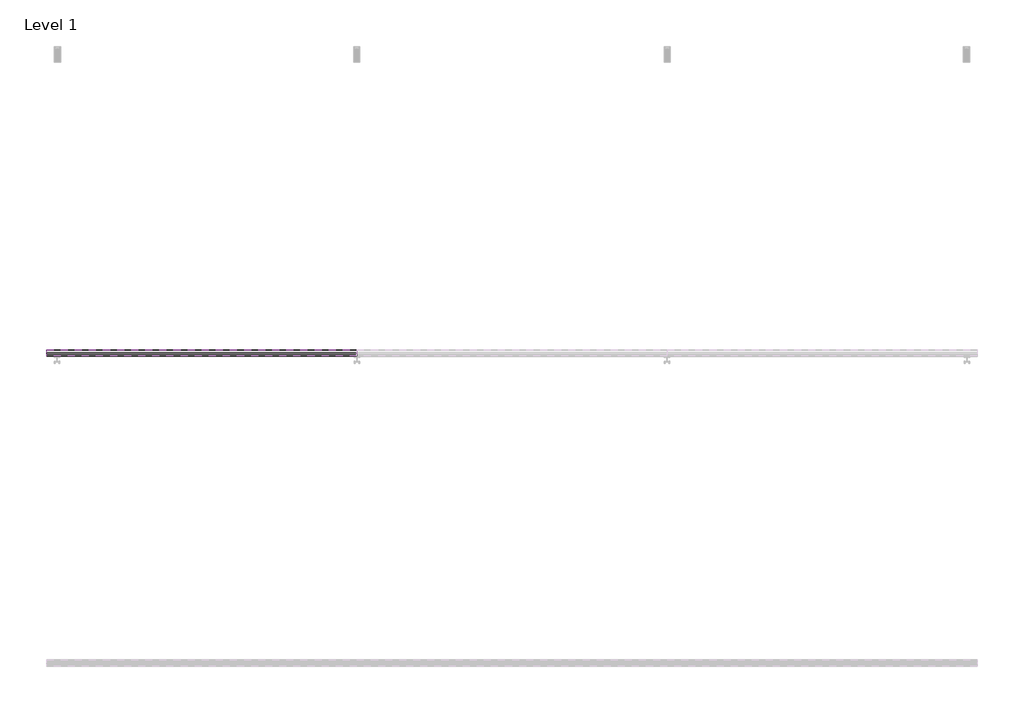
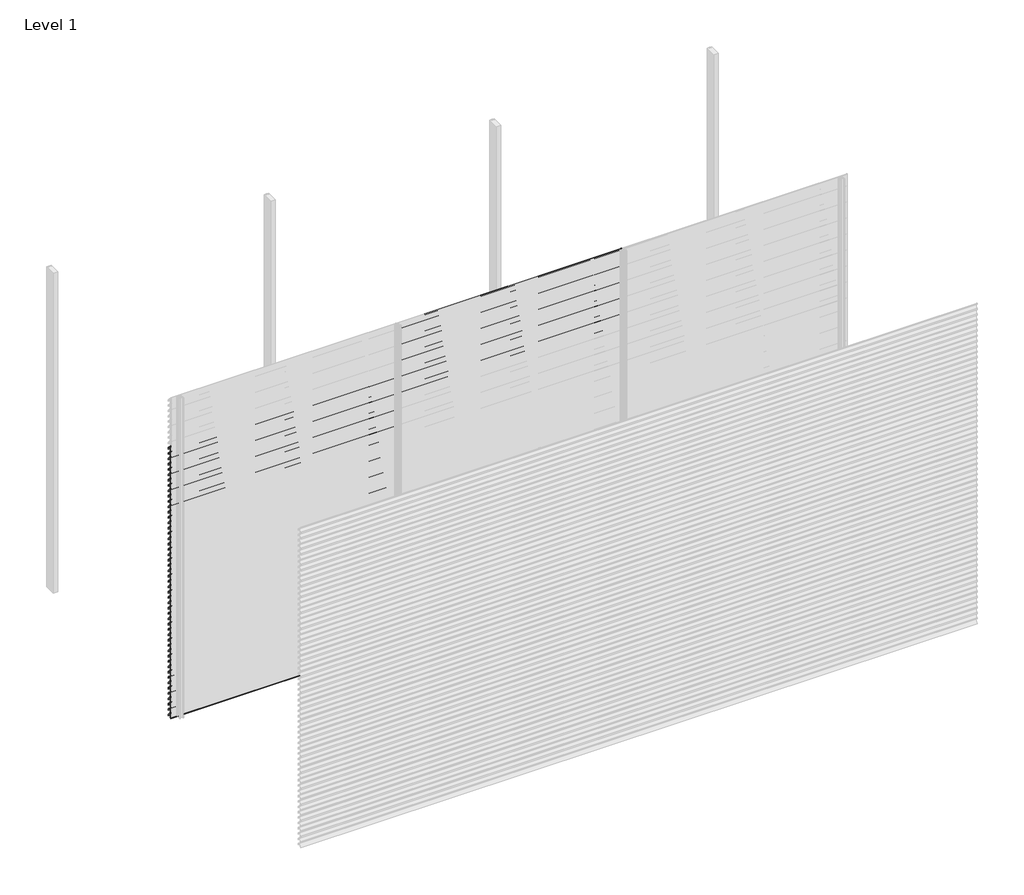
# One storey, part 11 of 38: 66 proxies.
"""IFC4 building model written with IfcOpenShell, lengths in millimetres."""

from ifc_helpers import new_model, si_unit, frame, origin, place, context, project, spatial, polyline, outline, extrude, element, save

model = new_model("IFC4")

# Units and contexts
model_context = context("Model", 3, world=origin())
ifc_project = project(units=[si_unit("LENGTHUNIT", "METRE", prefix="MILLI")], contexts=[model_context])

# Site, building, storey
site = spatial("IfcSite", under=ifc_project)
building = spatial("IfcBuilding", under=site)
storey = spatial("IfcBuildingStorey", under=building, Name="Level 1", Elevation=0.0)

# Proxies
placement = place(None, origin())
element("IfcBuildingElementProxy", 1, Name="Wall Sweeps", at=placement, inside=storey, context=model_context, shape_type="SweptSolid", body=[
    extrude(outline(polyline([(-41996.75, 2550.0), (-41996.75, 2539.19656), (-41974.6057113, 2526.4115489), (-41957.0, 2509.0472005), (-41957.0, 2494.0472005), (-41958.3, 2495.0268207), (-41958.3, 2508.5034593), (-41969.4914725, 2519.541504), (-41994.2797376, 2490.0), (-41995.9767671, 2490.0), (-41970.4200307, 2520.4573323), (-41975.3999793, 2525.3690091), (-41998.0, 2538.4171371), (-41998.0, 2550.0), (-41996.75, 2550.0)])), frame((0.0, 0.0, 0.0), z_axis=(1.0, 0.0, 0.0), x_axis=(0.0, 1.0, 0.0)), (0.0, 0.0, 1.0), 2000.0),
])
element("IfcBuildingElementProxy", 2, Name="Wall Sweeps", at=placement, inside=storey, context=model_context, shape_type="SweptSolid", body=[
    extrude(outline(polyline([(-41996.75, 2500.0), (-41996.75, 2489.19656), (-41974.6057113, 2476.4115489), (-41957.0, 2459.0472005), (-41957.0, 2444.0472005), (-41958.3, 2445.0268207), (-41958.3, 2458.5034593), (-41969.4914725, 2469.541504), (-41994.2797376, 2440.0), (-41995.9767671, 2440.0), (-41970.4200307, 2470.4573323), (-41975.3999793, 2475.3690091), (-41998.0, 2488.4171371), (-41998.0, 2500.0), (-41996.75, 2500.0)])), frame((0.0, 0.0, 0.0), z_axis=(1.0, 0.0, 0.0), x_axis=(0.0, 1.0, 0.0)), (0.0, 0.0, 1.0), 2000.0),
])
element("IfcBuildingElementProxy", 3, Name="Wall Sweeps", at=placement, inside=storey, context=model_context, shape_type="SweptSolid", body=[
    extrude(outline(polyline([(-41996.75, 2450.0), (-41996.75, 2439.19656), (-41974.6057113, 2426.4115489), (-41957.0, 2409.0472005), (-41957.0, 2394.0472005), (-41958.3, 2395.0268207), (-41958.3, 2408.5034593), (-41969.4914725, 2419.541504), (-41994.2797376, 2390.0), (-41995.9767671, 2390.0), (-41970.4200307, 2420.4573323), (-41975.3999793, 2425.3690091), (-41998.0, 2438.4171371), (-41998.0, 2450.0), (-41996.75, 2450.0)])), frame((0.0, 0.0, 0.0), z_axis=(1.0, 0.0, 0.0), x_axis=(0.0, 1.0, 0.0)), (0.0, 0.0, 1.0), 2000.0),
])
element("IfcBuildingElementProxy", 4, Name="Wall Sweeps", at=placement, inside=storey, context=model_context, shape_type="SweptSolid", body=[
    extrude(outline(polyline([(-41996.75, 2400.0), (-41996.75, 2389.19656), (-41974.6057113, 2376.4115489), (-41957.0, 2359.0472005), (-41957.0, 2344.0472005), (-41958.3, 2345.0268207), (-41958.3, 2358.5034593), (-41969.4914725, 2369.541504), (-41994.2797376, 2340.0), (-41995.9767671, 2340.0), (-41970.4200307, 2370.4573323), (-41975.3999793, 2375.3690091), (-41998.0, 2388.4171371), (-41998.0, 2400.0), (-41996.75, 2400.0)])), frame((0.0, 0.0, 0.0), z_axis=(1.0, 0.0, 0.0), x_axis=(0.0, 1.0, 0.0)), (0.0, 0.0, 1.0), 2000.0),
])
element("IfcBuildingElementProxy", 5, Name="Wall Sweeps", at=placement, inside=storey, context=model_context, shape_type="SweptSolid", body=[
    extrude(outline(polyline([(-41996.75, 2350.0), (-41996.75, 2339.19656), (-41974.6057113, 2326.4115489), (-41957.0, 2309.0472005), (-41957.0, 2294.0472005), (-41958.3, 2295.0268207), (-41958.3, 2308.5034593), (-41969.4914725, 2319.541504), (-41994.2797376, 2290.0), (-41995.9767671, 2290.0), (-41970.4200307, 2320.4573323), (-41975.3999793, 2325.3690091), (-41998.0, 2338.4171371), (-41998.0, 2350.0), (-41996.75, 2350.0)])), frame((0.0, 0.0, 0.0), z_axis=(1.0, 0.0, 0.0), x_axis=(0.0, 1.0, 0.0)), (0.0, 0.0, 1.0), 2000.0),
])
element("IfcBuildingElementProxy", 6, Name="Wall Sweeps", at=placement, inside=storey, context=model_context, shape_type="SweptSolid", body=[
    extrude(outline(polyline([(-41996.75, 2300.0), (-41996.75, 2289.19656), (-41974.6057113, 2276.4115489), (-41957.0, 2259.0472005), (-41957.0, 2244.0472005), (-41958.3, 2245.0268207), (-41958.3, 2258.5034593), (-41969.4914725, 2269.541504), (-41994.2797376, 2240.0), (-41995.9767671, 2240.0), (-41970.4200307, 2270.4573323), (-41975.3999793, 2275.3690091), (-41998.0, 2288.4171371), (-41998.0, 2300.0), (-41996.75, 2300.0)])), frame((0.0, 0.0, 0.0), z_axis=(1.0, 0.0, 0.0), x_axis=(0.0, 1.0, 0.0)), (0.0, 0.0, 1.0), 2000.0),
])
element("IfcBuildingElementProxy", 7, Name="Wall Sweeps", at=placement, inside=storey, context=model_context, shape_type="SweptSolid", body=[
    extrude(outline(polyline([(-41996.75, 2250.0), (-41996.75, 2239.19656), (-41974.6057113, 2226.4115489), (-41957.0, 2209.0472005), (-41957.0, 2194.0472005), (-41958.3, 2195.0268207), (-41958.3, 2208.5034593), (-41969.4914725, 2219.541504), (-41994.2797376, 2190.0), (-41995.9767671, 2190.0), (-41970.4200307, 2220.4573323), (-41975.3999793, 2225.3690091), (-41998.0, 2238.4171371), (-41998.0, 2250.0), (-41996.75, 2250.0)])), frame((0.0, 0.0, 0.0), z_axis=(1.0, 0.0, 0.0), x_axis=(0.0, 1.0, 0.0)), (0.0, 0.0, 1.0), 2000.0),
])
element("IfcBuildingElementProxy", 8, Name="Wall Sweeps", at=placement, inside=storey, context=model_context, shape_type="SweptSolid", body=[
    extrude(outline(polyline([(-41996.75, 2200.0), (-41996.75, 2189.19656), (-41974.6057113, 2176.4115489), (-41957.0, 2159.0472005), (-41957.0, 2144.0472005), (-41958.3, 2145.0268207), (-41958.3, 2158.5034593), (-41969.4914725, 2169.541504), (-41994.2797376, 2140.0), (-41995.9767671, 2140.0), (-41970.4200307, 2170.4573323), (-41975.3999793, 2175.3690091), (-41998.0, 2188.4171371), (-41998.0, 2200.0), (-41996.75, 2200.0)])), frame((0.0, 0.0, 0.0), z_axis=(1.0, 0.0, 0.0), x_axis=(0.0, 1.0, 0.0)), (0.0, 0.0, 1.0), 2000.0),
])
element("IfcBuildingElementProxy", 9, Name="Wall Sweeps", at=placement, inside=storey, context=model_context, shape_type="SweptSolid", body=[
    extrude(outline(polyline([(-41996.75, 2150.0), (-41996.75, 2139.19656), (-41974.6057113, 2126.4115489), (-41957.0, 2109.0472005), (-41957.0, 2094.0472005), (-41958.3, 2095.0268207), (-41958.3, 2108.5034593), (-41969.4914725, 2119.541504), (-41994.2797376, 2090.0), (-41995.9767671, 2090.0), (-41970.4200307, 2120.4573323), (-41975.3999793, 2125.3690091), (-41998.0, 2138.4171371), (-41998.0, 2150.0), (-41996.75, 2150.0)])), frame((0.0, 0.0, 0.0), z_axis=(1.0, 0.0, 0.0), x_axis=(0.0, 1.0, 0.0)), (0.0, 0.0, 1.0), 2000.0),
])
element("IfcBuildingElementProxy", 10, Name="Wall Sweeps", at=placement, inside=storey, context=model_context, shape_type="SweptSolid", body=[
    extrude(outline(polyline([(-41996.75, 2100.0), (-41996.75, 2089.19656), (-41974.6057113, 2076.4115489), (-41957.0, 2059.0472005), (-41957.0, 2044.0472005), (-41958.3, 2045.0268207), (-41958.3, 2058.5034593), (-41969.4914725, 2069.541504), (-41994.2797376, 2040.0), (-41995.9767671, 2040.0), (-41970.4200307, 2070.4573323), (-41975.3999793, 2075.3690091), (-41998.0, 2088.4171371), (-41998.0, 2100.0), (-41996.75, 2100.0)])), frame((0.0, 0.0, 0.0), z_axis=(1.0, 0.0, 0.0), x_axis=(0.0, 1.0, 0.0)), (0.0, 0.0, 1.0), 2000.0),
])
element("IfcBuildingElementProxy", 11, Name="Wall Sweeps", at=placement, inside=storey, context=model_context, shape_type="SweptSolid", body=[
    extrude(outline(polyline([(-41996.75, 2050.0), (-41996.75, 2039.19656), (-41974.6057113, 2026.4115489), (-41957.0, 2009.0472005), (-41957.0, 1994.0472005), (-41958.3, 1995.0268207), (-41958.3, 2008.5034593), (-41969.4914725, 2019.541504), (-41994.2797376, 1990.0), (-41995.9767671, 1990.0), (-41970.4200307, 2020.4573323), (-41975.3999793, 2025.3690091), (-41998.0, 2038.4171371), (-41998.0, 2050.0), (-41996.75, 2050.0)])), frame((0.0, 0.0, 0.0), z_axis=(1.0, 0.0, 0.0), x_axis=(0.0, 1.0, 0.0)), (0.0, 0.0, 1.0), 2000.0),
])
element("IfcBuildingElementProxy", 12, Name="Wall Sweeps", at=placement, inside=storey, context=model_context, shape_type="SweptSolid", body=[
    extrude(outline(polyline([(-41996.75, 2000.0), (-41996.75, 1989.19656), (-41974.6057113, 1976.4115489), (-41957.0, 1959.0472005), (-41957.0, 1944.0472005), (-41958.3, 1945.0268207), (-41958.3, 1958.5034593), (-41969.4914725, 1969.541504), (-41994.2797376, 1940.0), (-41995.9767671, 1940.0), (-41970.4200307, 1970.4573323), (-41975.3999793, 1975.3690091), (-41998.0, 1988.4171371), (-41998.0, 2000.0), (-41996.75, 2000.0)])), frame((0.0, 0.0, 0.0), z_axis=(1.0, 0.0, 0.0), x_axis=(0.0, 1.0, 0.0)), (0.0, 0.0, 1.0), 2000.0),
])
element("IfcBuildingElementProxy", 13, Name="Wall Sweeps", at=placement, inside=storey, context=model_context, shape_type="SweptSolid", body=[
    extrude(outline(polyline([(-41996.75, 1950.0), (-41996.75, 1939.19656), (-41974.6057113, 1926.4115489), (-41957.0, 1909.0472005), (-41957.0, 1894.0472005), (-41958.3, 1895.0268207), (-41958.3, 1908.5034593), (-41969.4914725, 1919.541504), (-41994.2797376, 1890.0), (-41995.9767671, 1890.0), (-41970.4200307, 1920.4573323), (-41975.3999793, 1925.3690091), (-41998.0, 1938.4171371), (-41998.0, 1950.0), (-41996.75, 1950.0)])), frame((0.0, 0.0, 0.0), z_axis=(1.0, 0.0, 0.0), x_axis=(0.0, 1.0, 0.0)), (0.0, 0.0, 1.0), 2000.0),
])
element("IfcBuildingElementProxy", 14, Name="Wall Sweeps", at=placement, inside=storey, context=model_context, shape_type="SweptSolid", body=[
    extrude(outline(polyline([(-41996.75, 1900.0), (-41996.75, 1889.19656), (-41974.6057113, 1876.4115489), (-41957.0, 1859.0472005), (-41957.0, 1844.0472005), (-41958.3, 1845.0268207), (-41958.3, 1858.5034593), (-41969.4914725, 1869.541504), (-41994.2797376, 1840.0), (-41995.9767671, 1840.0), (-41970.4200307, 1870.4573323), (-41975.3999793, 1875.3690091), (-41998.0, 1888.4171371), (-41998.0, 1900.0), (-41996.75, 1900.0)])), frame((0.0, 0.0, 0.0), z_axis=(1.0, 0.0, 0.0), x_axis=(0.0, 1.0, 0.0)), (0.0, 0.0, 1.0), 2000.0),
])
element("IfcBuildingElementProxy", 15, Name="Wall Sweeps", at=placement, inside=storey, context=model_context, shape_type="SweptSolid", body=[
    extrude(outline(polyline([(-41996.75, 1850.0), (-41996.75, 1839.19656), (-41974.6057113, 1826.4115489), (-41957.0, 1809.0472005), (-41957.0, 1794.0472005), (-41958.3, 1795.0268207), (-41958.3, 1808.5034593), (-41969.4914725, 1819.541504), (-41994.2797376, 1790.0), (-41995.9767671, 1790.0), (-41970.4200307, 1820.4573323), (-41975.3999793, 1825.3690091), (-41998.0, 1838.4171371), (-41998.0, 1850.0), (-41996.75, 1850.0)])), frame((0.0, 0.0, 0.0), z_axis=(1.0, 0.0, 0.0), x_axis=(0.0, 1.0, 0.0)), (0.0, 0.0, 1.0), 2000.0),
])
element("IfcBuildingElementProxy", 16, Name="Wall Sweeps", at=placement, inside=storey, context=model_context, shape_type="SweptSolid", body=[
    extrude(outline(polyline([(-41996.75, 1800.0), (-41996.75, 1789.19656), (-41974.6057113, 1776.4115489), (-41957.0, 1759.0472005), (-41957.0, 1744.0472005), (-41958.3, 1745.0268207), (-41958.3, 1758.5034593), (-41969.4914725, 1769.541504), (-41994.2797376, 1740.0), (-41995.9767671, 1740.0), (-41970.4200307, 1770.4573323), (-41975.3999793, 1775.3690091), (-41998.0, 1788.4171371), (-41998.0, 1800.0), (-41996.75, 1800.0)])), frame((0.0, 0.0, 0.0), z_axis=(1.0, 0.0, 0.0), x_axis=(0.0, 1.0, 0.0)), (0.0, 0.0, 1.0), 2000.0),
])
element("IfcBuildingElementProxy", 17, Name="Wall Sweeps", at=placement, inside=storey, context=model_context, shape_type="SweptSolid", body=[
    extrude(outline(polyline([(-41996.75, 1750.0), (-41996.75, 1739.19656), (-41974.6057113, 1726.4115489), (-41957.0, 1709.0472005), (-41957.0, 1694.0472005), (-41958.3, 1695.0268207), (-41958.3, 1708.5034593), (-41969.4914725, 1719.541504), (-41994.2797376, 1690.0), (-41995.9767671, 1690.0), (-41970.4200307, 1720.4573323), (-41975.3999793, 1725.3690091), (-41998.0, 1738.4171371), (-41998.0, 1750.0), (-41996.75, 1750.0)])), frame((0.0, 0.0, 0.0), z_axis=(1.0, 0.0, 0.0), x_axis=(0.0, 1.0, 0.0)), (0.0, 0.0, 1.0), 2000.0),
])
element("IfcBuildingElementProxy", 18, Name="Wall Sweeps", at=placement, inside=storey, context=model_context, shape_type="SweptSolid", body=[
    extrude(outline(polyline([(-41996.75, 1700.0), (-41996.75, 1689.19656), (-41974.6057113, 1676.4115489), (-41957.0, 1659.0472005), (-41957.0, 1644.0472005), (-41958.3, 1645.0268207), (-41958.3, 1658.5034593), (-41969.4914725, 1669.541504), (-41994.2797376, 1640.0), (-41995.9767671, 1640.0), (-41970.4200307, 1670.4573323), (-41975.3999793, 1675.3690091), (-41998.0, 1688.4171371), (-41998.0, 1700.0), (-41996.75, 1700.0)])), frame((0.0, 0.0, 0.0), z_axis=(1.0, 0.0, 0.0), x_axis=(0.0, 1.0, 0.0)), (0.0, 0.0, 1.0), 2000.0),
])
element("IfcBuildingElementProxy", 19, Name="Wall Sweeps", at=placement, inside=storey, context=model_context, shape_type="SweptSolid", body=[
    extrude(outline(polyline([(-41996.75, 1650.0), (-41996.75, 1639.19656), (-41974.6057113, 1626.4115489), (-41957.0, 1609.0472005), (-41957.0, 1594.0472005), (-41958.3, 1595.0268207), (-41958.3, 1608.5034593), (-41969.4914725, 1619.541504), (-41994.2797376, 1590.0), (-41995.9767671, 1590.0), (-41970.4200307, 1620.4573323), (-41975.3999793, 1625.3690091), (-41998.0, 1638.4171371), (-41998.0, 1650.0), (-41996.75, 1650.0)])), frame((0.0, 0.0, 0.0), z_axis=(1.0, 0.0, 0.0), x_axis=(0.0, 1.0, 0.0)), (0.0, 0.0, 1.0), 2000.0),
])
element("IfcBuildingElementProxy", 20, Name="Wall Sweeps", at=placement, inside=storey, context=model_context, shape_type="SweptSolid", body=[
    extrude(outline(polyline([(-41996.75, 1600.0), (-41996.75, 1589.19656), (-41974.6057113, 1576.4115489), (-41957.0, 1559.0472005), (-41957.0, 1544.0472005), (-41958.3, 1545.0268207), (-41958.3, 1558.5034593), (-41969.4914725, 1569.541504), (-41994.2797376, 1540.0), (-41995.9767671, 1540.0), (-41970.4200307, 1570.4573323), (-41975.3999793, 1575.3690091), (-41998.0, 1588.4171371), (-41998.0, 1600.0), (-41996.75, 1600.0)])), frame((0.0, 0.0, 0.0), z_axis=(1.0, 0.0, 0.0), x_axis=(0.0, 1.0, 0.0)), (0.0, 0.0, 1.0), 2000.0),
])
element("IfcBuildingElementProxy", 21, Name="Wall Sweeps", at=placement, inside=storey, context=model_context, shape_type="SweptSolid", body=[
    extrude(outline(polyline([(-41996.75, 1550.0), (-41996.75, 1539.19656), (-41974.6057113, 1526.4115489), (-41957.0, 1509.0472005), (-41957.0, 1494.0472005), (-41958.3, 1495.0268207), (-41958.3, 1508.5034593), (-41969.4914725, 1519.541504), (-41994.2797376, 1490.0), (-41995.9767671, 1490.0), (-41970.4200307, 1520.4573323), (-41975.3999793, 1525.3690091), (-41998.0, 1538.4171371), (-41998.0, 1550.0), (-41996.75, 1550.0)])), frame((0.0, 0.0, 0.0), z_axis=(1.0, 0.0, 0.0), x_axis=(0.0, 1.0, 0.0)), (0.0, 0.0, 1.0), 2000.0),
])
element("IfcBuildingElementProxy", 22, Name="Wall Sweeps", at=placement, inside=storey, context=model_context, shape_type="SweptSolid", body=[
    extrude(outline(polyline([(-41996.75, 1500.0), (-41996.75, 1489.19656), (-41974.6057113, 1476.4115489), (-41957.0, 1459.0472005), (-41957.0, 1444.0472005), (-41958.3, 1445.0268207), (-41958.3, 1458.5034593), (-41969.4914725, 1469.541504), (-41994.2797376, 1440.0), (-41995.9767671, 1440.0), (-41970.4200307, 1470.4573323), (-41975.3999793, 1475.3690091), (-41998.0, 1488.4171371), (-41998.0, 1500.0), (-41996.75, 1500.0)])), frame((0.0, 0.0, 0.0), z_axis=(1.0, 0.0, 0.0), x_axis=(0.0, 1.0, 0.0)), (0.0, 0.0, 1.0), 2000.0),
])
element("IfcBuildingElementProxy", 23, Name="Wall Sweeps", at=placement, inside=storey, context=model_context, shape_type="SweptSolid", body=[
    extrude(outline(polyline([(-41996.75, 1450.0), (-41996.75, 1439.19656), (-41974.6057113, 1426.4115489), (-41957.0, 1409.0472005), (-41957.0, 1394.0472005), (-41958.3, 1395.0268207), (-41958.3, 1408.5034593), (-41969.4914725, 1419.541504), (-41994.2797376, 1390.0), (-41995.9767671, 1390.0), (-41970.4200307, 1420.4573323), (-41975.3999793, 1425.3690091), (-41998.0, 1438.4171371), (-41998.0, 1450.0), (-41996.75, 1450.0)])), frame((0.0, 0.0, 0.0), z_axis=(1.0, 0.0, 0.0), x_axis=(0.0, 1.0, 0.0)), (0.0, 0.0, 1.0), 2000.0),
])
element("IfcBuildingElementProxy", 24, Name="Wall Sweeps", at=placement, inside=storey, context=model_context, shape_type="SweptSolid", body=[
    extrude(outline(polyline([(-41996.75, 1400.0), (-41996.75, 1389.19656), (-41974.6057113, 1376.4115489), (-41957.0, 1359.0472005), (-41957.0, 1344.0472005), (-41958.3, 1345.0268207), (-41958.3, 1358.5034593), (-41969.4914725, 1369.541504), (-41994.2797376, 1340.0), (-41995.9767671, 1340.0), (-41970.4200307, 1370.4573323), (-41975.3999793, 1375.3690091), (-41998.0, 1388.4171371), (-41998.0, 1400.0), (-41996.75, 1400.0)])), frame((0.0, 0.0, 0.0), z_axis=(1.0, 0.0, 0.0), x_axis=(0.0, 1.0, 0.0)), (0.0, 0.0, 1.0), 2000.0),
])
element("IfcBuildingElementProxy", 25, Name="Wall Sweeps", at=placement, inside=storey, context=model_context, shape_type="SweptSolid", body=[
    extrude(outline(polyline([(-41996.75, 1350.0), (-41996.75, 1339.19656), (-41974.6057113, 1326.4115489), (-41957.0, 1309.0472005), (-41957.0, 1294.0472005), (-41958.3, 1295.0268207), (-41958.3, 1308.5034593), (-41969.4914725, 1319.541504), (-41994.2797376, 1290.0), (-41995.9767671, 1290.0), (-41970.4200307, 1320.4573323), (-41975.3999793, 1325.3690091), (-41998.0, 1338.4171371), (-41998.0, 1350.0), (-41996.75, 1350.0)])), frame((0.0, 0.0, 0.0), z_axis=(1.0, 0.0, 0.0), x_axis=(0.0, 1.0, 0.0)), (0.0, 0.0, 1.0), 2000.0),
])
element("IfcBuildingElementProxy", 26, Name="Wall Sweeps", at=placement, inside=storey, context=model_context, shape_type="SweptSolid", body=[
    extrude(outline(polyline([(-41996.75, 1300.0), (-41996.75, 1289.19656), (-41974.6057113, 1276.4115489), (-41957.0, 1259.0472005), (-41957.0, 1244.0472005), (-41958.3, 1245.0268207), (-41958.3, 1258.5034593), (-41969.4914725, 1269.541504), (-41994.2797376, 1240.0), (-41995.9767671, 1240.0), (-41970.4200307, 1270.4573323), (-41975.3999793, 1275.3690091), (-41998.0, 1288.4171371), (-41998.0, 1300.0), (-41996.75, 1300.0)])), frame((0.0, 0.0, 0.0), z_axis=(1.0, 0.0, 0.0), x_axis=(0.0, 1.0, 0.0)), (0.0, 0.0, 1.0), 2000.0),
])
element("IfcBuildingElementProxy", 27, Name="Wall Sweeps", at=placement, inside=storey, context=model_context, shape_type="SweptSolid", body=[
    extrude(outline(polyline([(-41996.75, 1250.0), (-41996.75, 1239.19656), (-41974.6057113, 1226.4115489), (-41957.0, 1209.0472005), (-41957.0, 1194.0472005), (-41958.3, 1195.0268207), (-41958.3, 1208.5034593), (-41969.4914725, 1219.541504), (-41994.2797376, 1190.0), (-41995.9767671, 1190.0), (-41970.4200307, 1220.4573323), (-41975.3999793, 1225.3690091), (-41998.0, 1238.4171371), (-41998.0, 1250.0), (-41996.75, 1250.0)])), frame((0.0, 0.0, 0.0), z_axis=(1.0, 0.0, 0.0), x_axis=(0.0, 1.0, 0.0)), (0.0, 0.0, 1.0), 2000.0),
])
element("IfcBuildingElementProxy", 28, Name="Wall Sweeps", at=placement, inside=storey, context=model_context, shape_type="SweptSolid", body=[
    extrude(outline(polyline([(-41996.75, 1200.0), (-41996.75, 1189.19656), (-41974.6057113, 1176.4115489), (-41957.0, 1159.0472005), (-41957.0, 1144.0472005), (-41958.3, 1145.0268207), (-41958.3, 1158.5034593), (-41969.4914725, 1169.541504), (-41994.2797376, 1140.0), (-41995.9767671, 1140.0), (-41970.4200307, 1170.4573323), (-41975.3999793, 1175.3690091), (-41998.0, 1188.4171371), (-41998.0, 1200.0), (-41996.75, 1200.0)])), frame((0.0, 0.0, 0.0), z_axis=(1.0, 0.0, 0.0), x_axis=(0.0, 1.0, 0.0)), (0.0, 0.0, 1.0), 2000.0),
])
element("IfcBuildingElementProxy", 29, Name="Wall Sweeps", at=placement, inside=storey, context=model_context, shape_type="SweptSolid", body=[
    extrude(outline(polyline([(-41996.75, 1150.0), (-41996.75, 1139.19656), (-41974.6057113, 1126.4115489), (-41957.0, 1109.0472005), (-41957.0, 1094.0472005), (-41958.3, 1095.0268207), (-41958.3, 1108.5034593), (-41969.4914725, 1119.541504), (-41994.2797376, 1090.0), (-41995.9767671, 1090.0), (-41970.4200307, 1120.4573323), (-41975.3999793, 1125.3690091), (-41998.0, 1138.4171371), (-41998.0, 1150.0), (-41996.75, 1150.0)])), frame((0.0, 0.0, 0.0), z_axis=(1.0, 0.0, 0.0), x_axis=(0.0, 1.0, 0.0)), (0.0, 0.0, 1.0), 2000.0),
])
element("IfcBuildingElementProxy", 30, Name="Wall Sweeps", at=placement, inside=storey, context=model_context, shape_type="SweptSolid", body=[
    extrude(outline(polyline([(-41996.75, 1100.0), (-41996.75, 1089.19656), (-41974.6057113, 1076.4115489), (-41957.0, 1059.0472005), (-41957.0, 1044.0472005), (-41958.3, 1045.0268207), (-41958.3, 1058.5034593), (-41969.4914725, 1069.541504), (-41994.2797376, 1040.0), (-41995.9767671, 1040.0), (-41970.4200307, 1070.4573323), (-41975.3999793, 1075.3690091), (-41998.0, 1088.4171371), (-41998.0, 1100.0), (-41996.75, 1100.0)])), frame((0.0, 0.0, 0.0), z_axis=(1.0, 0.0, 0.0), x_axis=(0.0, 1.0, 0.0)), (0.0, 0.0, 1.0), 2000.0),
])
element("IfcBuildingElementProxy", 31, Name="Wall Sweeps", at=placement, inside=storey, context=model_context, shape_type="SweptSolid", body=[
    extrude(outline(polyline([(-41996.75, 1050.0), (-41996.75, 1039.19656), (-41974.6057113, 1026.4115489), (-41957.0, 1009.0472005), (-41957.0, 994.0472005), (-41958.3, 995.0268207), (-41958.3, 1008.5034593), (-41969.4914725, 1019.541504), (-41994.2797376, 990.0), (-41995.9767671, 990.0), (-41970.4200307, 1020.4573323), (-41975.3999793, 1025.3690091), (-41998.0, 1038.4171371), (-41998.0, 1050.0), (-41996.75, 1050.0)])), frame((0.0, 0.0, 0.0), z_axis=(1.0, 0.0, 0.0), x_axis=(0.0, 1.0, 0.0)), (0.0, 0.0, 1.0), 2000.0),
])
element("IfcBuildingElementProxy", 32, Name="Wall Sweeps", at=placement, inside=storey, context=model_context, shape_type="SweptSolid", body=[
    extrude(outline(polyline([(-41996.75, 1000.0), (-41996.75, 989.19656), (-41974.6057113, 976.4115489), (-41957.0, 959.0472005), (-41957.0, 944.0472005), (-41958.3, 945.0268207), (-41958.3, 958.5034593), (-41969.4914725, 969.541504), (-41994.2797376, 940.0), (-41995.9767671, 940.0), (-41970.4200307, 970.4573323), (-41975.3999793, 975.3690091), (-41998.0, 988.4171371), (-41998.0, 1000.0), (-41996.75, 1000.0)])), frame((0.0, 0.0, 0.0), z_axis=(1.0, 0.0, 0.0), x_axis=(0.0, 1.0, 0.0)), (0.0, 0.0, 1.0), 2000.0),
])
element("IfcBuildingElementProxy", 33, Name="Wall Sweeps", at=placement, inside=storey, context=model_context, shape_type="SweptSolid", body=[
    extrude(outline(polyline([(-41996.75, 950.0), (-41996.75, 939.19656), (-41974.6057113, 926.4115489), (-41957.0, 909.0472005), (-41957.0, 894.0472005), (-41958.3, 895.0268207), (-41958.3, 908.5034593), (-41969.4914725, 919.541504), (-41994.2797376, 890.0), (-41995.9767671, 890.0), (-41970.4200307, 920.4573323), (-41975.3999793, 925.3690091), (-41998.0, 938.4171371), (-41998.0, 950.0), (-41996.75, 950.0)])), frame((0.0, 0.0, 0.0), z_axis=(1.0, 0.0, 0.0), x_axis=(0.0, 1.0, 0.0)), (0.0, 0.0, 1.0), 2000.0),
])
element("IfcBuildingElementProxy", 34, Name="Wall Sweeps", at=placement, inside=storey, context=model_context, shape_type="SweptSolid", body=[
    extrude(outline(polyline([(-41996.75, 900.0), (-41996.75, 889.19656), (-41974.6057113, 876.4115489), (-41957.0, 859.0472005), (-41957.0, 844.0472005), (-41958.3, 845.0268207), (-41958.3, 858.5034593), (-41969.4914725, 869.541504), (-41994.2797376, 840.0), (-41995.9767671, 840.0), (-41970.4200307, 870.4573323), (-41975.3999793, 875.3690091), (-41998.0, 888.4171371), (-41998.0, 900.0), (-41996.75, 900.0)])), frame((0.0, 0.0, 0.0), z_axis=(1.0, 0.0, 0.0), x_axis=(0.0, 1.0, 0.0)), (0.0, 0.0, 1.0), 2000.0),
])
element("IfcBuildingElementProxy", 35, Name="Wall Sweeps", at=placement, inside=storey, context=model_context, shape_type="SweptSolid", body=[
    extrude(outline(polyline([(-41996.75, 850.0), (-41996.75, 839.19656), (-41974.6057113, 826.4115489), (-41957.0, 809.0472005), (-41957.0, 794.0472005), (-41958.3, 795.0268207), (-41958.3, 808.5034593), (-41969.4914725, 819.541504), (-41994.2797376, 790.0), (-41995.9767671, 790.0), (-41970.4200307, 820.4573323), (-41975.3999793, 825.3690091), (-41998.0, 838.4171371), (-41998.0, 850.0), (-41996.75, 850.0)])), frame((0.0, 0.0, 0.0), z_axis=(1.0, 0.0, 0.0), x_axis=(0.0, 1.0, 0.0)), (0.0, 0.0, 1.0), 2000.0),
])
element("IfcBuildingElementProxy", 36, Name="Wall Sweeps", at=placement, inside=storey, context=model_context, shape_type="SweptSolid", body=[
    extrude(outline(polyline([(-41996.75, 800.0), (-41996.75, 789.19656), (-41974.6057113, 776.4115489), (-41957.0, 759.0472005), (-41957.0, 744.0472005), (-41958.3, 745.0268207), (-41958.3, 758.5034593), (-41969.4914725, 769.541504), (-41994.2797376, 740.0), (-41995.9767671, 740.0), (-41970.4200307, 770.4573323), (-41975.3999793, 775.3690091), (-41998.0, 788.4171371), (-41998.0, 800.0), (-41996.75, 800.0)])), frame((0.0, 0.0, 0.0), z_axis=(1.0, 0.0, 0.0), x_axis=(0.0, 1.0, 0.0)), (0.0, 0.0, 1.0), 2000.0),
])
element("IfcBuildingElementProxy", 37, Name="Wall Sweeps", at=placement, inside=storey, context=model_context, shape_type="SweptSolid", body=[
    extrude(outline(polyline([(-41996.75, 750.0), (-41996.75, 739.19656), (-41974.6057113, 726.4115489), (-41957.0, 709.0472005), (-41957.0, 694.0472005), (-41958.3, 695.0268207), (-41958.3, 708.5034593), (-41969.4914725, 719.541504), (-41994.2797376, 690.0), (-41995.9767671, 690.0), (-41970.4200307, 720.4573323), (-41975.3999793, 725.3690091), (-41998.0, 738.4171371), (-41998.0, 750.0), (-41996.75, 750.0)])), frame((0.0, 0.0, 0.0), z_axis=(1.0, 0.0, 0.0), x_axis=(0.0, 1.0, 0.0)), (0.0, 0.0, 1.0), 2000.0),
])
element("IfcBuildingElementProxy", 38, Name="Wall Sweeps", at=placement, inside=storey, context=model_context, shape_type="SweptSolid", body=[
    extrude(outline(polyline([(-41996.75, 700.0), (-41996.75, 689.19656), (-41974.6057113, 676.4115489), (-41957.0, 659.0472005), (-41957.0, 644.0472005), (-41958.3, 645.0268207), (-41958.3, 658.5034593), (-41969.4914725, 669.541504), (-41994.2797376, 640.0), (-41995.9767671, 640.0), (-41970.4200307, 670.4573323), (-41975.3999793, 675.3690091), (-41998.0, 688.4171371), (-41998.0, 700.0), (-41996.75, 700.0)])), frame((0.0, 0.0, 0.0), z_axis=(1.0, 0.0, 0.0), x_axis=(0.0, 1.0, 0.0)), (0.0, 0.0, 1.0), 2000.0),
])
element("IfcBuildingElementProxy", 39, Name="Wall Sweeps", at=placement, inside=storey, context=model_context, shape_type="SweptSolid", body=[
    extrude(outline(polyline([(-41996.75, 650.0), (-41996.75, 639.19656), (-41974.6057113, 626.4115489), (-41957.0, 609.0472005), (-41957.0, 594.0472005), (-41958.3, 595.0268207), (-41958.3, 608.5034593), (-41969.4914725, 619.541504), (-41994.2797376, 590.0), (-41995.9767671, 590.0), (-41970.4200307, 620.4573323), (-41975.3999793, 625.3690091), (-41998.0, 638.4171371), (-41998.0, 650.0), (-41996.75, 650.0)])), frame((0.0, 0.0, 0.0), z_axis=(1.0, 0.0, 0.0), x_axis=(0.0, 1.0, 0.0)), (0.0, 0.0, 1.0), 2000.0),
])
element("IfcBuildingElementProxy", 40, Name="Wall Sweeps", at=placement, inside=storey, context=model_context, shape_type="SweptSolid", body=[
    extrude(outline(polyline([(-41996.75, 600.0), (-41996.75, 589.19656), (-41974.6057113, 576.4115489), (-41957.0, 559.0472005), (-41957.0, 544.0472005), (-41958.3, 545.0268207), (-41958.3, 558.5034593), (-41969.4914725, 569.541504), (-41994.2797376, 540.0), (-41995.9767671, 540.0), (-41970.4200307, 570.4573323), (-41975.3999793, 575.3690091), (-41998.0, 588.4171371), (-41998.0, 600.0), (-41996.75, 600.0)])), frame((0.0, 0.0, 0.0), z_axis=(1.0, 0.0, 0.0), x_axis=(0.0, 1.0, 0.0)), (0.0, 0.0, 1.0), 2000.0),
])
element("IfcBuildingElementProxy", 41, Name="Wall Sweeps", at=placement, inside=storey, context=model_context, shape_type="SweptSolid", body=[
    extrude(outline(polyline([(-41996.75, 550.0), (-41996.75, 539.19656), (-41974.6057113, 526.4115489), (-41957.0, 509.0472005), (-41957.0, 494.0472005), (-41958.3, 495.0268207), (-41958.3, 508.5034593), (-41969.4914725, 519.541504), (-41994.2797376, 490.0), (-41995.9767671, 490.0), (-41970.4200307, 520.4573323), (-41975.3999793, 525.3690091), (-41998.0, 538.4171371), (-41998.0, 550.0), (-41996.75, 550.0)])), frame((0.0, 0.0, 0.0), z_axis=(1.0, 0.0, 0.0), x_axis=(0.0, 1.0, 0.0)), (0.0, 0.0, 1.0), 2000.0),
])
element("IfcBuildingElementProxy", 42, Name="Wall Sweeps", at=placement, inside=storey, context=model_context, shape_type="SweptSolid", body=[
    extrude(outline(polyline([(-41996.75, 500.0), (-41996.75, 489.19656), (-41974.6057113, 476.4115489), (-41957.0, 459.0472005), (-41957.0, 444.0472005), (-41958.3, 445.0268207), (-41958.3, 458.5034593), (-41969.4914725, 469.541504), (-41994.2797376, 440.0), (-41995.9767671, 440.0), (-41970.4200307, 470.4573323), (-41975.3999793, 475.3690091), (-41998.0, 488.4171371), (-41998.0, 500.0), (-41996.75, 500.0)])), frame((0.0, 0.0, 0.0), z_axis=(1.0, 0.0, 0.0), x_axis=(0.0, 1.0, 0.0)), (0.0, 0.0, 1.0), 2000.0),
])
element("IfcBuildingElementProxy", 43, Name="Wall Sweeps", at=placement, inside=storey, context=model_context, shape_type="SweptSolid", body=[
    extrude(outline(polyline([(-41996.75, 450.0), (-41996.75, 439.19656), (-41974.6057113, 426.4115489), (-41957.0, 409.0472005), (-41957.0, 394.0472005), (-41958.3, 395.0268207), (-41958.3, 408.5034593), (-41969.4914725, 419.541504), (-41994.2797376, 390.0), (-41995.9767671, 390.0), (-41970.4200307, 420.4573323), (-41975.3999793, 425.3690091), (-41998.0, 438.4171371), (-41998.0, 450.0), (-41996.75, 450.0)])), frame((0.0, 0.0, 0.0), z_axis=(1.0, 0.0, 0.0), x_axis=(0.0, 1.0, 0.0)), (0.0, 0.0, 1.0), 2000.0),
])
element("IfcBuildingElementProxy", 44, Name="Wall Sweeps", at=placement, inside=storey, context=model_context, shape_type="SweptSolid", body=[
    extrude(outline(polyline([(-41996.75, 400.0), (-41996.75, 389.19656), (-41974.6057113, 376.4115489), (-41957.0, 359.0472005), (-41957.0, 344.0472005), (-41958.3, 345.0268207), (-41958.3, 358.5034593), (-41969.4914725, 369.541504), (-41994.2797376, 340.0), (-41995.9767671, 340.0), (-41970.4200307, 370.4573323), (-41975.3999793, 375.3690091), (-41998.0, 388.4171371), (-41998.0, 400.0), (-41996.75, 400.0)])), frame((0.0, 0.0, 0.0), z_axis=(1.0, 0.0, 0.0), x_axis=(0.0, 1.0, 0.0)), (0.0, 0.0, 1.0), 2000.0),
])
element("IfcBuildingElementProxy", 45, Name="Wall Sweeps", at=placement, inside=storey, context=model_context, shape_type="SweptSolid", body=[
    extrude(outline(polyline([(-41996.75, 350.0), (-41996.75, 339.19656), (-41974.6057113, 326.4115489), (-41957.0, 309.0472005), (-41957.0, 294.0472005), (-41958.3, 295.0268207), (-41958.3, 308.5034593), (-41969.4914725, 319.541504), (-41994.2797376, 290.0), (-41995.9767671, 290.0), (-41970.4200307, 320.4573323), (-41975.3999793, 325.3690091), (-41998.0, 338.4171371), (-41998.0, 350.0), (-41996.75, 350.0)])), frame((0.0, 0.0, 0.0), z_axis=(1.0, 0.0, 0.0), x_axis=(0.0, 1.0, 0.0)), (0.0, 0.0, 1.0), 2000.0),
])
element("IfcBuildingElementProxy", 46, Name="Wall Sweeps", at=placement, inside=storey, context=model_context, shape_type="SweptSolid", body=[
    extrude(outline(polyline([(-41996.75, 300.0), (-41996.75, 289.19656), (-41974.6057113, 276.4115489), (-41957.0, 259.0472005), (-41957.0, 244.0472005), (-41958.3, 245.0268207), (-41958.3, 258.5034593), (-41969.4914725, 269.541504), (-41994.2797376, 240.0), (-41995.9767671, 240.0), (-41970.4200307, 270.4573323), (-41975.3999793, 275.3690091), (-41998.0, 288.4171371), (-41998.0, 300.0), (-41996.75, 300.0)])), frame((0.0, 0.0, 0.0), z_axis=(1.0, 0.0, 0.0), x_axis=(0.0, 1.0, 0.0)), (0.0, 0.0, 1.0), 2000.0),
])
element("IfcBuildingElementProxy", 47, Name="Wall Sweeps", at=placement, inside=storey, context=model_context, shape_type="SweptSolid", body=[
    extrude(outline(polyline([(-41996.75, 250.0), (-41996.75, 239.19656), (-41974.6057113, 226.4115489), (-41957.0, 209.0472005), (-41957.0, 194.0472005), (-41958.3, 195.0268207), (-41958.3, 208.5034593), (-41969.4914725, 219.541504), (-41994.2797376, 190.0), (-41995.9767671, 190.0), (-41970.4200307, 220.4573323), (-41975.3999793, 225.3690091), (-41998.0, 238.4171371), (-41998.0, 250.0), (-41996.75, 250.0)])), frame((0.0, 0.0, 0.0), z_axis=(1.0, 0.0, 0.0), x_axis=(0.0, 1.0, 0.0)), (0.0, 0.0, 1.0), 2000.0),
])
element("IfcBuildingElementProxy", 48, Name="Wall Sweeps", at=placement, inside=storey, context=model_context, shape_type="SweptSolid", body=[
    extrude(outline(polyline([(-41996.75, 200.0), (-41996.75, 189.19656), (-41974.6057113, 176.4115489), (-41957.0, 159.0472005), (-41957.0, 144.0472005), (-41958.3, 145.0268207), (-41958.3, 158.5034593), (-41969.4914725, 169.541504), (-41994.2797376, 140.0), (-41995.9767671, 140.0), (-41970.4200307, 170.4573323), (-41975.3999793, 175.3690091), (-41998.0, 188.4171371), (-41998.0, 200.0), (-41996.75, 200.0)])), frame((0.0, 0.0, 0.0), z_axis=(1.0, 0.0, 0.0), x_axis=(0.0, 1.0, 0.0)), (0.0, 0.0, 1.0), 2000.0),
])
element("IfcBuildingElementProxy", 49, Name="Wall Sweeps", at=placement, inside=storey, context=model_context, shape_type="SweptSolid", body=[
    extrude(outline(polyline([(-41996.75, 150.0), (-41996.75, 139.19656), (-41974.6057113, 126.4115489), (-41957.0, 109.0472005), (-41957.0, 94.0472005), (-41958.3, 95.0268207), (-41958.3, 108.5034593), (-41969.4914725, 119.541504), (-41994.2797376, 90.0), (-41995.9767671, 90.0), (-41970.4200307, 120.4573323), (-41975.3999793, 125.3690091), (-41998.0, 138.4171371), (-41998.0, 150.0), (-41996.75, 150.0)])), frame((0.0, 0.0, 0.0), z_axis=(1.0, 0.0, 0.0), x_axis=(0.0, 1.0, 0.0)), (0.0, 0.0, 1.0), 2000.0),
])
element("IfcBuildingElementProxy", 50, Name="Wall Sweeps", at=placement, inside=storey, context=model_context, shape_type="SweptSolid", body=[
    extrude(outline(polyline([(-41996.75, 100.0), (-41996.75, 89.19656), (-41974.6057113, 76.4115489), (-41957.0, 59.0472005), (-41957.0, 44.0472005), (-41958.3, 45.0268207), (-41958.3, 58.5034593), (-41969.4914725, 69.541504), (-41994.2797376, 40.0), (-41995.9767671, 40.0), (-41970.4200307, 70.4573323), (-41975.3999793, 75.3690091), (-41998.0, 88.4171371), (-41998.0, 100.0), (-41996.75, 100.0)])), frame((0.0, 0.0, 0.0), z_axis=(1.0, 0.0, 0.0), x_axis=(0.0, 1.0, 0.0)), (0.0, 0.0, 1.0), 2000.0),
])
element("IfcBuildingElementProxy", 51, Name="Wall Sweeps", at=placement, inside=storey, context=model_context, shape_type="SweptSolid", body=[
    extrude(outline(polyline([(-41996.75, 50.0), (-41996.75, 39.19656), (-41974.6057113, 26.4115489), (-41957.0, 9.0472005), (-41957.0, -5.9527995), (-41958.3, -4.9731793), (-41958.3, 8.5034593), (-41969.4914725, 19.541504), (-41994.2797376, -10.0), (-41995.9767671, -10.0), (-41970.4200307, 20.4573323), (-41975.3999793, 25.3690091), (-41998.0, 38.4171371), (-41998.0, 50.0), (-41996.75, 50.0)])), frame((0.0, 0.0, 0.0), z_axis=(1.0, 0.0, 0.0), x_axis=(0.0, 1.0, 0.0)), (0.0, 0.0, 1.0), 2000.0),
])
element("IfcBuildingElementProxy", 52, Name="Wall Sweeps", at=placement, inside=storey, context=model_context, shape_type="SweptSolid", body=[
    extrude(outline(polyline([(-41996.75, 3000.0), (-41996.75, 2989.19656), (-41974.6057113, 2976.4115489), (-41957.0, 2959.0472005), (-41957.0, 2944.0472005), (-41958.3, 2945.0268207), (-41958.3, 2958.5034593), (-41969.4914725, 2969.541504), (-41994.2797376, 2940.0), (-41995.9767671, 2940.0), (-41970.4200307, 2970.4573323), (-41975.3999793, 2975.3690091), (-41998.0, 2988.4171371), (-41998.0, 3000.0), (-41996.75, 3000.0)])), frame((2000.0, 0.0, 0.0), z_axis=(1.0, 0.0, 0.0), x_axis=(0.0, 1.0, 0.0)), (0.0, 0.0, 1.0), 2000.0),
])
element("IfcBuildingElementProxy", 53, Name="Wall Sweeps", at=placement, inside=storey, context=model_context, shape_type="SweptSolid", body=[
    extrude(outline(polyline([(-41996.75, 2950.0), (-41996.75, 2939.19656), (-41974.6057113, 2926.4115489), (-41957.0, 2909.0472005), (-41957.0, 2894.0472005), (-41958.3, 2895.0268207), (-41958.3, 2908.5034593), (-41969.4914725, 2919.541504), (-41994.2797376, 2890.0), (-41995.9767671, 2890.0), (-41970.4200307, 2920.4573323), (-41975.3999793, 2925.3690091), (-41998.0, 2938.4171371), (-41998.0, 2950.0), (-41996.75, 2950.0)])), frame((2000.0, 0.0, 0.0), z_axis=(1.0, 0.0, 0.0), x_axis=(0.0, 1.0, 0.0)), (0.0, 0.0, 1.0), 2000.0),
])
element("IfcBuildingElementProxy", 54, Name="Wall Sweeps", at=placement, inside=storey, context=model_context, shape_type="SweptSolid", body=[
    extrude(outline(polyline([(-41996.75, 2900.0), (-41996.75, 2889.19656), (-41974.6057113, 2876.4115489), (-41957.0, 2859.0472005), (-41957.0, 2844.0472005), (-41958.3, 2845.0268207), (-41958.3, 2858.5034593), (-41969.4914725, 2869.541504), (-41994.2797376, 2840.0), (-41995.9767671, 2840.0), (-41970.4200307, 2870.4573323), (-41975.3999793, 2875.3690091), (-41998.0, 2888.4171371), (-41998.0, 2900.0), (-41996.75, 2900.0)])), frame((2000.0, 0.0, 0.0), z_axis=(1.0, 0.0, 0.0), x_axis=(0.0, 1.0, 0.0)), (0.0, 0.0, 1.0), 2000.0),
])
element("IfcBuildingElementProxy", 55, Name="Wall Sweeps", at=placement, inside=storey, context=model_context, shape_type="SweptSolid", body=[
    extrude(outline(polyline([(-41996.75, 2850.0), (-41996.75, 2839.19656), (-41974.6057113, 2826.4115489), (-41957.0, 2809.0472005), (-41957.0, 2794.0472005), (-41958.3, 2795.0268207), (-41958.3, 2808.5034593), (-41969.4914725, 2819.541504), (-41994.2797376, 2790.0), (-41995.9767671, 2790.0), (-41970.4200307, 2820.4573323), (-41975.3999793, 2825.3690091), (-41998.0, 2838.4171371), (-41998.0, 2850.0), (-41996.75, 2850.0)])), frame((2000.0, 0.0, 0.0), z_axis=(1.0, 0.0, 0.0), x_axis=(0.0, 1.0, 0.0)), (0.0, 0.0, 1.0), 2000.0),
])
element("IfcBuildingElementProxy", 56, Name="Wall Sweeps", at=placement, inside=storey, context=model_context, shape_type="SweptSolid", body=[
    extrude(outline(polyline([(-41996.75, 2800.0), (-41996.75, 2789.19656), (-41974.6057113, 2776.4115489), (-41957.0, 2759.0472005), (-41957.0, 2744.0472005), (-41958.3, 2745.0268207), (-41958.3, 2758.5034593), (-41969.4914725, 2769.541504), (-41994.2797376, 2740.0), (-41995.9767671, 2740.0), (-41970.4200307, 2770.4573323), (-41975.3999793, 2775.3690091), (-41998.0, 2788.4171371), (-41998.0, 2800.0), (-41996.75, 2800.0)])), frame((2000.0, 0.0, 0.0), z_axis=(1.0, 0.0, 0.0), x_axis=(0.0, 1.0, 0.0)), (0.0, 0.0, 1.0), 2000.0),
])
element("IfcBuildingElementProxy", 57, Name="Wall Sweeps", at=placement, inside=storey, context=model_context, shape_type="SweptSolid", body=[
    extrude(outline(polyline([(-41996.75, 2750.0), (-41996.75, 2739.19656), (-41974.6057113, 2726.4115489), (-41957.0, 2709.0472005), (-41957.0, 2694.0472005), (-41958.3, 2695.0268207), (-41958.3, 2708.5034593), (-41969.4914725, 2719.541504), (-41994.2797376, 2690.0), (-41995.9767671, 2690.0), (-41970.4200307, 2720.4573323), (-41975.3999793, 2725.3690091), (-41998.0, 2738.4171371), (-41998.0, 2750.0), (-41996.75, 2750.0)])), frame((2000.0, 0.0, 0.0), z_axis=(1.0, 0.0, 0.0), x_axis=(0.0, 1.0, 0.0)), (0.0, 0.0, 1.0), 2000.0),
])
element("IfcBuildingElementProxy", 58, Name="Wall Sweeps", at=placement, inside=storey, context=model_context, shape_type="SweptSolid", body=[
    extrude(outline(polyline([(-41996.75, 2700.0), (-41996.75, 2689.19656), (-41974.6057113, 2676.4115489), (-41957.0, 2659.0472005), (-41957.0, 2644.0472005), (-41958.3, 2645.0268207), (-41958.3, 2658.5034593), (-41969.4914725, 2669.541504), (-41994.2797376, 2640.0), (-41995.9767671, 2640.0), (-41970.4200307, 2670.4573323), (-41975.3999793, 2675.3690091), (-41998.0, 2688.4171371), (-41998.0, 2700.0), (-41996.75, 2700.0)])), frame((2000.0, 0.0, 0.0), z_axis=(1.0, 0.0, 0.0), x_axis=(0.0, 1.0, 0.0)), (0.0, 0.0, 1.0), 2000.0),
])
element("IfcBuildingElementProxy", 59, Name="Wall Sweeps", at=placement, inside=storey, context=model_context, shape_type="SweptSolid", body=[
    extrude(outline(polyline([(-41996.75, 2650.0), (-41996.75, 2639.19656), (-41974.6057113, 2626.4115489), (-41957.0, 2609.0472005), (-41957.0, 2594.0472005), (-41958.3, 2595.0268207), (-41958.3, 2608.5034593), (-41969.4914725, 2619.541504), (-41994.2797376, 2590.0), (-41995.9767671, 2590.0), (-41970.4200307, 2620.4573323), (-41975.3999793, 2625.3690091), (-41998.0, 2638.4171371), (-41998.0, 2650.0), (-41996.75, 2650.0)])), frame((2000.0, 0.0, 0.0), z_axis=(1.0, 0.0, 0.0), x_axis=(0.0, 1.0, 0.0)), (0.0, 0.0, 1.0), 2000.0),
])
element("IfcBuildingElementProxy", 60, Name="Wall Sweeps", at=placement, inside=storey, context=model_context, shape_type="SweptSolid", body=[
    extrude(outline(polyline([(-41996.75, 2600.0), (-41996.75, 2589.19656), (-41974.6057113, 2576.4115489), (-41957.0, 2559.0472005), (-41957.0, 2544.0472005), (-41958.3, 2545.0268207), (-41958.3, 2558.5034593), (-41969.4914725, 2569.541504), (-41994.2797376, 2540.0), (-41995.9767671, 2540.0), (-41970.4200307, 2570.4573323), (-41975.3999793, 2575.3690091), (-41998.0, 2588.4171371), (-41998.0, 2600.0), (-41996.75, 2600.0)])), frame((2000.0, 0.0, 0.0), z_axis=(1.0, 0.0, 0.0), x_axis=(0.0, 1.0, 0.0)), (0.0, 0.0, 1.0), 2000.0),
])
element("IfcBuildingElementProxy", 61, Name="Wall Sweeps", at=placement, inside=storey, context=model_context, shape_type="SweptSolid", body=[
    extrude(outline(polyline([(-41996.75, 2550.0), (-41996.75, 2539.19656), (-41974.6057113, 2526.4115489), (-41957.0, 2509.0472005), (-41957.0, 2494.0472005), (-41958.3, 2495.0268207), (-41958.3, 2508.5034593), (-41969.4914725, 2519.541504), (-41994.2797376, 2490.0), (-41995.9767671, 2490.0), (-41970.4200307, 2520.4573323), (-41975.3999793, 2525.3690091), (-41998.0, 2538.4171371), (-41998.0, 2550.0), (-41996.75, 2550.0)])), frame((2000.0, 0.0, 0.0), z_axis=(1.0, 0.0, 0.0), x_axis=(0.0, 1.0, 0.0)), (0.0, 0.0, 1.0), 2000.0),
])
element("IfcBuildingElementProxy", 62, Name="Wall Sweeps", at=placement, inside=storey, context=model_context, shape_type="SweptSolid", body=[
    extrude(outline(polyline([(-41996.75, 2500.0), (-41996.75, 2489.19656), (-41974.6057113, 2476.4115489), (-41957.0, 2459.0472005), (-41957.0, 2444.0472005), (-41958.3, 2445.0268207), (-41958.3, 2458.5034593), (-41969.4914725, 2469.541504), (-41994.2797376, 2440.0), (-41995.9767671, 2440.0), (-41970.4200307, 2470.4573323), (-41975.3999793, 2475.3690091), (-41998.0, 2488.4171371), (-41998.0, 2500.0), (-41996.75, 2500.0)])), frame((2000.0, 0.0, 0.0), z_axis=(1.0, 0.0, 0.0), x_axis=(0.0, 1.0, 0.0)), (0.0, 0.0, 1.0), 2000.0),
])
element("IfcBuildingElementProxy", 63, Name="Wall Sweeps", at=placement, inside=storey, context=model_context, shape_type="SweptSolid", body=[
    extrude(outline(polyline([(-41996.75, 2450.0), (-41996.75, 2439.19656), (-41974.6057113, 2426.4115489), (-41957.0, 2409.0472005), (-41957.0, 2394.0472005), (-41958.3, 2395.0268207), (-41958.3, 2408.5034593), (-41969.4914725, 2419.541504), (-41994.2797376, 2390.0), (-41995.9767671, 2390.0), (-41970.4200307, 2420.4573323), (-41975.3999793, 2425.3690091), (-41998.0, 2438.4171371), (-41998.0, 2450.0), (-41996.75, 2450.0)])), frame((2000.0, 0.0, 0.0), z_axis=(1.0, 0.0, 0.0), x_axis=(0.0, 1.0, 0.0)), (0.0, 0.0, 1.0), 2000.0),
])
element("IfcBuildingElementProxy", 64, Name="Wall Sweeps", at=placement, inside=storey, context=model_context, shape_type="SweptSolid", body=[
    extrude(outline(polyline([(-41996.75, 2400.0), (-41996.75, 2389.19656), (-41974.6057113, 2376.4115489), (-41957.0, 2359.0472005), (-41957.0, 2344.0472005), (-41958.3, 2345.0268207), (-41958.3, 2358.5034593), (-41969.4914725, 2369.541504), (-41994.2797376, 2340.0), (-41995.9767671, 2340.0), (-41970.4200307, 2370.4573323), (-41975.3999793, 2375.3690091), (-41998.0, 2388.4171371), (-41998.0, 2400.0), (-41996.75, 2400.0)])), frame((2000.0, 0.0, 0.0), z_axis=(1.0, 0.0, 0.0), x_axis=(0.0, 1.0, 0.0)), (0.0, 0.0, 1.0), 2000.0),
])
element("IfcBuildingElementProxy", 65, Name="Wall Sweeps", at=placement, inside=storey, context=model_context, shape_type="SweptSolid", body=[
    extrude(outline(polyline([(-41996.75, 2350.0), (-41996.75, 2339.19656), (-41974.6057113, 2326.4115489), (-41957.0, 2309.0472005), (-41957.0, 2294.0472005), (-41958.3, 2295.0268207), (-41958.3, 2308.5034593), (-41969.4914725, 2319.541504), (-41994.2797376, 2290.0), (-41995.9767671, 2290.0), (-41970.4200307, 2320.4573323), (-41975.3999793, 2325.3690091), (-41998.0, 2338.4171371), (-41998.0, 2350.0), (-41996.75, 2350.0)])), frame((2000.0, 0.0, 0.0), z_axis=(1.0, 0.0, 0.0), x_axis=(0.0, 1.0, 0.0)), (0.0, 0.0, 1.0), 2000.0),
])
element("IfcBuildingElementProxy", 66, Name="Wall Sweeps", at=placement, inside=storey, context=model_context, shape_type="SweptSolid", body=[
    extrude(outline(polyline([(-41996.75, 2300.0), (-41996.75, 2289.19656), (-41974.6057113, 2276.4115489), (-41957.0, 2259.0472005), (-41957.0, 2244.0472005), (-41958.3, 2245.0268207), (-41958.3, 2258.5034593), (-41969.4914725, 2269.541504), (-41994.2797376, 2240.0), (-41995.9767671, 2240.0), (-41970.4200307, 2270.4573323), (-41975.3999793, 2275.3690091), (-41998.0, 2288.4171371), (-41998.0, 2300.0), (-41996.75, 2300.0)])), frame((2000.0, 0.0, 0.0), z_axis=(1.0, 0.0, 0.0), x_axis=(0.0, 1.0, 0.0)), (0.0, 0.0, 1.0), 2000.0),
])

save(model, "model.ifc")
